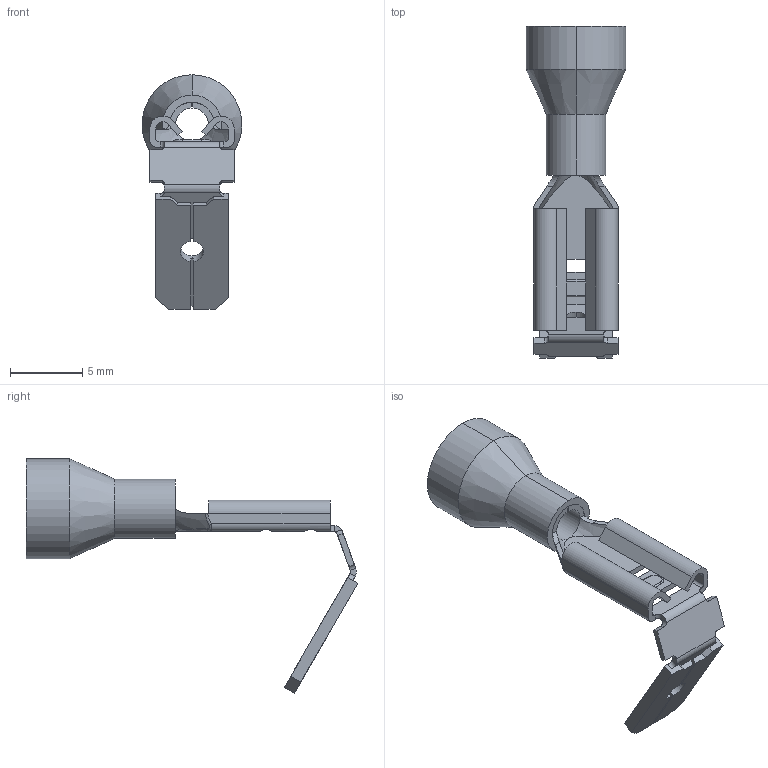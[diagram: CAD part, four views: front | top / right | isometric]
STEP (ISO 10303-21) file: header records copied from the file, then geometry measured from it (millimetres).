
FILE_DESCRIPTION (( 'STEP AP214' ), '1' );
FILE_NAME ('278093 OptiKit S-PO-PVC-2,5-7-0,4.STEP', '2020-02-19T10:57:29', ( '' ), ( '' ), 'SwSTEP 2.0', 'SolidWorks 2018', '' );
FILE_SCHEMA (( 'AUTOMOTIVE_DESIGN' ));
Length unit declared in the file: millimetre
Products named in the file (3): 278093 OptiKit S-PO-PVC-2,5-7-0,4; 朽琥屐 酗阮 2,5-7,5-0,4; Îïëåòêà 222
Assembly tree (2 placements, depth 2):
  278093 OptiKit S-PO-PVC-2,5-7-0,4
    Îïëåòêà 222
    朽琥屐 酗阮 2,5-7,5-0,4
Bounding box: 6.9 x 22.91 x 16.19 mm (x, y, z)
Volume: 186.9 mm3; surface area: 831.9 mm2
Topology: 2 solids, 2 shells, 134 faces, 377 edges, 242 vertices
Faces by surface type: plane 73, cylinder 40, bspline 10, cone 8, torus 3
Entity records: 4726 total; most frequent: CARTESIAN_POINT 1202, ORIENTED_EDGE 750, DIRECTION 692, EDGE_CURVE 375, VERTEX_POINT 242, AXIS2_PLACEMENT_3D 242, LINE 208, VECTOR 208
